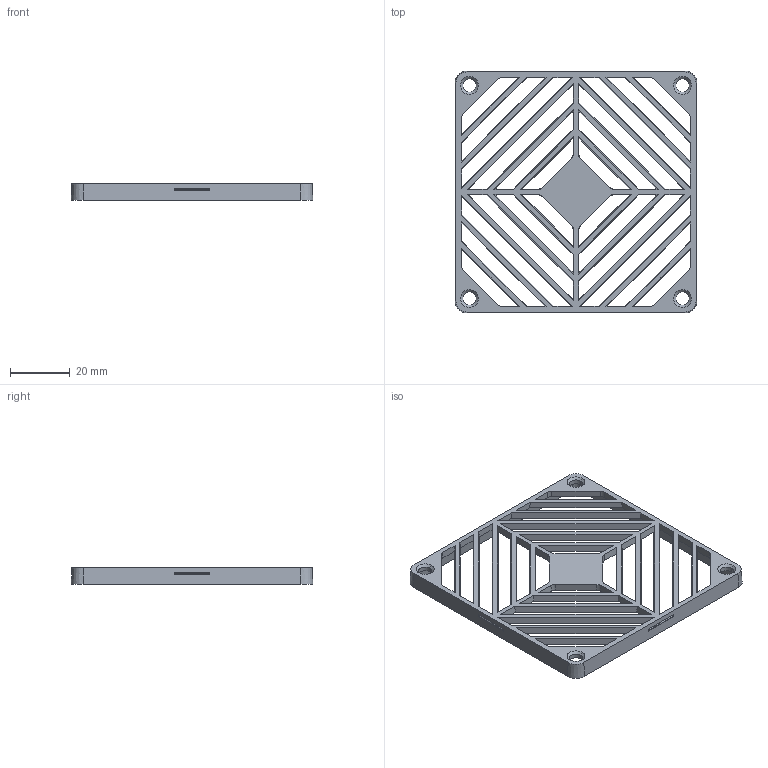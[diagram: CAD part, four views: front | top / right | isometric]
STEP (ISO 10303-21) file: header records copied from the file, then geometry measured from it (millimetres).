
FILE_DESCRIPTION (( 'STEP AP203' ), '1' );
FILE_NAME ('G80.STEP', '2021-04-23T13:13:46', ( '' ), ( '' ), 'SwSTEP 2.0', 'SolidWorks 2019', '' );
FILE_SCHEMA (( 'CONFIG_CONTROL_DESIGN' ));
Length unit declared in the file: millimetre
Products named in the file (1): G80
Bounding box: 81.02 x 81.02 x 5.5 mm (x, y, z)
Volume: 8047 mm3; surface area: 12809.3 mm2
Topology: 1 solids, 1 shells, 180 faces, 496 edges, 312 vertices
Faces by surface type: plane 124, cylinder 40, cone 16
Entity records: 5777 total; most frequent: CARTESIAN_POINT 1085, ORIENTED_EDGE 992, DIRECTION 882, EDGE_CURVE 496, VECTOR 408, LINE 408, VERTEX_POINT 312, AXIS2_PLACEMENT_3D 237
